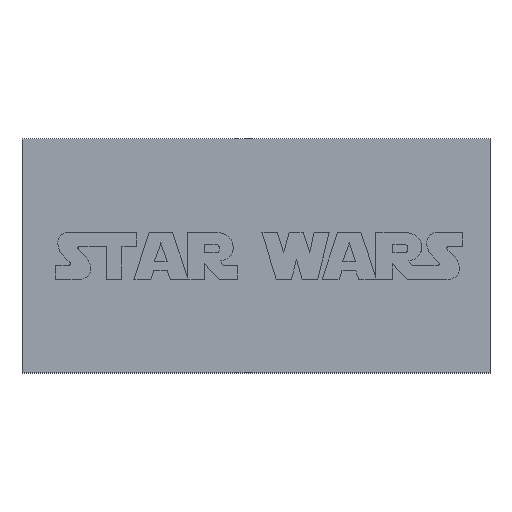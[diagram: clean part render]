
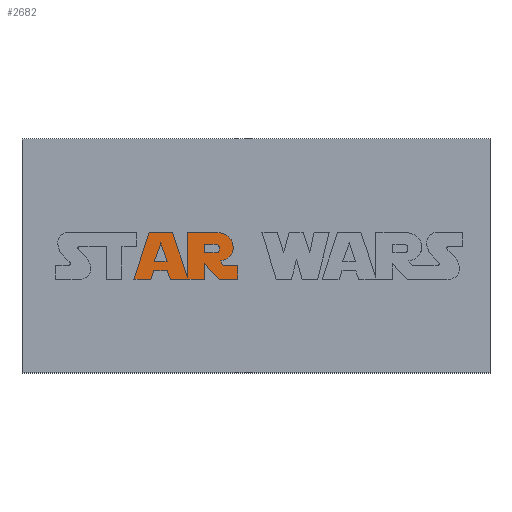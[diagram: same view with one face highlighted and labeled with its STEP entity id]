
A CAD part, top view. The second image highlights one B-rep face of the part: STEP entity #2682.
In plain terms, the highlighted planar face has unit normal (0, 0, 1).
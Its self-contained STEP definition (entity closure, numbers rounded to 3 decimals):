
#2049=CARTESIAN_POINT('',(-11.023,2.503,6.5));
#2050=VERTEX_POINT('',#2049);
#2051=CARTESIAN_POINT('',(-8.515,2.503,6.5));
#2052=VERTEX_POINT('',#2051);
#2053=CARTESIAN_POINT('',(-11.023,2.503,6.5));
#2054=DIRECTION('',(1.0,0.0,0.0));
#2055=VECTOR('',#2054,2.508);
#2056=LINE('',#2053,#2055);
#2057=EDGE_CURVE('',#2050,#2052,#2056,.T.);
#2093=CARTESIAN_POINT('',(-7.818,1.564,6.5));
#2094=VERTEX_POINT('',#2093);
#2095=CARTESIAN_POINT('',(-8.515,2.503,6.5));
#2096=CARTESIAN_POINT('',(-8.349,2.503,6.5));
#2097=CARTESIAN_POINT('',(-7.852,2.138,6.5));
#2098=CARTESIAN_POINT('',(-7.818,1.564,6.5));
#2099=QUASI_UNIFORM_CURVE('',2,(#2095,#2096,#2097,#2098),.UNSPECIFIED.,.F.,.U.);
#2100=EDGE_CURVE('',#2052,#2094,#2099,.T.);
#2130=CARTESIAN_POINT('',(-8.504,0.657,6.5));
#2131=VERTEX_POINT('',#2130);
#2132=CARTESIAN_POINT('',(-7.818,1.564,6.5));
#2133=CARTESIAN_POINT('',(-7.841,0.956,6.5));
#2134=CARTESIAN_POINT('',(-8.305,0.657,6.5));
#2135=CARTESIAN_POINT('',(-8.504,0.657,6.5));
#2136=QUASI_UNIFORM_CURVE('',2,(#2132,#2133,#2134,#2135),.UNSPECIFIED.,.F.,.U.);
#2137=EDGE_CURVE('',#2094,#2131,#2136,.T.);
#2163=CARTESIAN_POINT('',(-11.023,0.657,6.5));
#2164=VERTEX_POINT('',#2163);
#2165=CARTESIAN_POINT('',(-8.504,0.657,6.5));
#2166=DIRECTION('',(-1.0,0.0,0.0));
#2167=VECTOR('',#2166,2.519);
#2168=LINE('',#2165,#2167);
#2169=EDGE_CURVE('',#2131,#2164,#2168,.T.);
#2194=CARTESIAN_POINT('',(-11.023,0.657,6.5));
#2195=DIRECTION('',(0.0,1.0,0.0));
#2196=VECTOR('',#2195,1.845);
#2197=LINE('',#2194,#2196);
#2198=EDGE_CURVE('',#2164,#2050,#2197,.T.);
#2216=CARTESIAN_POINT('',(-14.636,-4.603,6.5));
#2217=VERTEX_POINT('',#2216);
#2226=CARTESIAN_POINT('',(-14.636,5.,6.5));
#2227=VERTEX_POINT('',#2226);
#2228=CARTESIAN_POINT('',(-14.636,-4.603,6.5));
#2229=DIRECTION('',(0.0,1.0,0.0));
#2230=VECTOR('',#2229,9.603);
#2231=LINE('',#2228,#2230);
#2232=EDGE_CURVE('',#2217,#2227,#2231,.T.);
#2256=CARTESIAN_POINT('',(-8.139,5.,6.5));
#2257=VERTEX_POINT('',#2256);
#2258=CARTESIAN_POINT('',(-14.636,5.,6.5));
#2259=DIRECTION('',(1.0,0.0,0.0));
#2260=VECTOR('',#2259,6.497);
#2261=LINE('',#2258,#2260);
#2262=EDGE_CURVE('',#2227,#2257,#2261,.T.);
#2291=CARTESIAN_POINT('',(-5.023,2.945,6.5));
#2292=VERTEX_POINT('',#2291);
#2293=CARTESIAN_POINT('',(-8.139,5.,6.5));
#2294=CARTESIAN_POINT('',(-6.934,4.89,6.5));
#2295=CARTESIAN_POINT('',(-5.376,3.829,6.5));
#2296=CARTESIAN_POINT('',(-5.023,2.945,6.5));
#2297=QUASI_UNIFORM_CURVE('',2,(#2293,#2294,#2295,#2296),.UNSPECIFIED.,.F.,.U.);
#2298=EDGE_CURVE('',#2257,#2292,#2297,.T.);
#2330=CARTESIAN_POINT('',(-7.653,-1.066,6.5));
#2331=VERTEX_POINT('',#2330);
#2332=CARTESIAN_POINT('',(-5.023,2.945,6.5));
#2333=CARTESIAN_POINT('',(-4.747,1.619,6.5));
#2334=CARTESIAN_POINT('',(-5.244,0.182,6.5));
#2335=CARTESIAN_POINT('',(-6.481,-0.79,6.5));
#2336=CARTESIAN_POINT('',(-7.653,-1.066,6.5));
#2337=QUASI_UNIFORM_CURVE('',2,(#2332,#2333,#2334,#2335,#2336),.UNSPECIFIED.,.F.,.U.);
#2338=EDGE_CURVE('',#2292,#2331,#2337,.T.);
#2365=CARTESIAN_POINT('',(-6.901,-2.028,6.5));
#2366=VERTEX_POINT('',#2365);
#2367=CARTESIAN_POINT('',(-7.653,-1.066,6.5));
#2368=DIRECTION('',(0.616,-0.788,0.0));
#2369=VECTOR('',#2368,1.22);
#2370=LINE('',#2367,#2369);
#2371=EDGE_CURVE('',#2331,#2366,#2370,.T.);
#2396=CARTESIAN_POINT('',(-3.907,-2.028,6.5));
#2397=VERTEX_POINT('',#2396);
#2398=CARTESIAN_POINT('',(-6.901,-2.028,6.5));
#2399=DIRECTION('',(1.0,0.0,0.0));
#2400=VECTOR('',#2399,2.994);
#2401=LINE('',#2398,#2400);
#2402=EDGE_CURVE('',#2366,#2397,#2401,.T.);
#2427=CARTESIAN_POINT('',(-3.907,-5.,6.5));
#2428=VERTEX_POINT('',#2427);
#2429=CARTESIAN_POINT('',(-3.907,-2.028,6.5));
#2430=DIRECTION('',(0.0,-1.0,0.0));
#2431=VECTOR('',#2430,2.972);
#2432=LINE('',#2429,#2431);
#2433=EDGE_CURVE('',#2397,#2428,#2432,.T.);
#2458=CARTESIAN_POINT('',(-7.852,-5.,6.5));
#2459=VERTEX_POINT('',#2458);
#2460=CARTESIAN_POINT('',(-3.907,-5.,6.5));
#2461=DIRECTION('',(-1.0,0.0,0.0));
#2462=VECTOR('',#2461,3.945);
#2463=LINE('',#2460,#2462);
#2464=EDGE_CURVE('',#2428,#2459,#2463,.T.);
#2489=CARTESIAN_POINT('',(-11.023,-1.696,6.5));
#2490=VERTEX_POINT('',#2489);
#2491=CARTESIAN_POINT('',(-7.852,-5.,6.5));
#2492=DIRECTION('',(-0.692,0.721,0.0));
#2493=VECTOR('',#2492,4.58);
#2494=LINE('',#2491,#2493);
#2495=EDGE_CURVE('',#2459,#2490,#2494,.T.);
#2520=CARTESIAN_POINT('',(-11.023,-5.,6.5));
#2521=VERTEX_POINT('',#2520);
#2522=CARTESIAN_POINT('',(-11.023,-1.696,6.5));
#2523=DIRECTION('',(0.0,-1.0,0.0));
#2524=VECTOR('',#2523,3.304);
#2525=LINE('',#2522,#2524);
#2526=EDGE_CURVE('',#2490,#2521,#2525,.T.);
#2551=CARTESIAN_POINT('',(-18.283,-5.,6.5));
#2552=VERTEX_POINT('',#2551);
#2553=CARTESIAN_POINT('',(-11.023,-5.,6.5));
#2554=DIRECTION('',(-1.0,0.0,0.0));
#2555=VECTOR('',#2554,7.26);
#2556=LINE('',#2553,#2555);
#2557=EDGE_CURVE('',#2521,#2552,#2556,.T.);
#2577=CARTESIAN_POINT('',(-20.314,-0.923,6.5));
#2578=DIRECTION('',(0.0,0.0,1.0));
#2579=DIRECTION('',(1.0,0.0,0.0));
#2580=AXIS2_PLACEMENT_3D('',#2577,#2578,#2579);
#2581=PLANE('',#2580);
#2582=CARTESIAN_POINT('',(-17.841,5.,6.5));
#2583=VERTEX_POINT('',#2582);
#2584=CARTESIAN_POINT('',(-17.841,5.,6.5));
#2585=DIRECTION('',(0.317,-0.949,0.0));
#2586=VECTOR('',#2585,10.123);
#2587=LINE('',#2584,#2586);
#2588=EDGE_CURVE('',#2583,#2217,#2587,.T.);
#2589=ORIENTED_EDGE('',*,*,#2588,.F.);
#2590=CARTESIAN_POINT('',(-22.813,5.,6.5));
#2591=VERTEX_POINT('',#2590);
#2592=CARTESIAN_POINT('',(-22.813,5.,6.5));
#2593=DIRECTION('',(1.0,0.0,0.0));
#2594=VECTOR('',#2593,4.972);
#2595=LINE('',#2592,#2594);
#2596=EDGE_CURVE('',#2591,#2583,#2595,.T.);
#2597=ORIENTED_EDGE('',*,*,#2596,.F.);
#2598=CARTESIAN_POINT('',(-26.095,-5.,6.5));
#2599=VERTEX_POINT('',#2598);
#2600=CARTESIAN_POINT('',(-26.095,-5.,6.5));
#2601=DIRECTION('',(0.312,0.95,0.0));
#2602=VECTOR('',#2601,10.525);
#2603=LINE('',#2600,#2602);
#2604=EDGE_CURVE('',#2599,#2591,#2603,.T.);
#2605=ORIENTED_EDGE('',*,*,#2604,.F.);
#2606=CARTESIAN_POINT('',(-22.515,-5.,6.5));
#2607=VERTEX_POINT('',#2606);
#2608=CARTESIAN_POINT('',(-22.515,-5.,6.5));
#2609=DIRECTION('',(-1.0,0.0,0.0));
#2610=VECTOR('',#2609,3.58);
#2611=LINE('',#2608,#2610);
#2612=EDGE_CURVE('',#2607,#2599,#2611,.T.);
#2613=ORIENTED_EDGE('',*,*,#2612,.F.);
#2614=CARTESIAN_POINT('',(-21.885,-3.199,6.5));
#2615=VERTEX_POINT('',#2614);
#2616=CARTESIAN_POINT('',(-21.885,-3.199,6.5));
#2617=DIRECTION('',(-0.33,-0.944,0.0));
#2618=VECTOR('',#2617,1.908);
#2619=LINE('',#2616,#2618);
#2620=EDGE_CURVE('',#2615,#2607,#2619,.T.);
#2621=ORIENTED_EDGE('',*,*,#2620,.F.);
#2622=CARTESIAN_POINT('',(-18.912,-3.199,6.5));
#2623=VERTEX_POINT('',#2622);
#2624=CARTESIAN_POINT('',(-18.912,-3.199,6.5));
#2625=DIRECTION('',(-1.0,0.0,0.0));
#2626=VECTOR('',#2625,2.972);
#2627=LINE('',#2624,#2626);
#2628=EDGE_CURVE('',#2623,#2615,#2627,.T.);
#2629=ORIENTED_EDGE('',*,*,#2628,.F.);
#2630=CARTESIAN_POINT('',(-18.283,-5.,6.5));
#2631=DIRECTION('',(-0.33,0.944,0.0));
#2632=VECTOR('',#2631,1.908);
#2633=LINE('',#2630,#2632);
#2634=EDGE_CURVE('',#2552,#2623,#2633,.T.);
#2635=ORIENTED_EDGE('',*,*,#2634,.F.);
#2636=ORIENTED_EDGE('',*,*,#2557,.F.);
#2637=ORIENTED_EDGE('',*,*,#2526,.F.);
#2638=ORIENTED_EDGE('',*,*,#2495,.F.);
#2639=ORIENTED_EDGE('',*,*,#2464,.F.);
#2640=ORIENTED_EDGE('',*,*,#2433,.F.);
#2641=ORIENTED_EDGE('',*,*,#2402,.F.);
#2642=ORIENTED_EDGE('',*,*,#2371,.F.);
#2643=ORIENTED_EDGE('',*,*,#2338,.F.);
#2644=ORIENTED_EDGE('',*,*,#2298,.F.);
#2645=ORIENTED_EDGE('',*,*,#2262,.F.);
#2646=ORIENTED_EDGE('',*,*,#2232,.F.);
#2647=EDGE_LOOP('',(#2589,#2597,#2605,#2613,#2621,#2629,#2635,#2636,#2637,#2638,#2639,#2640,#2641,#2642,#2643,#2644,#2645,#2646));
#2648=FACE_OUTER_BOUND('',#2647,.T.);
#2649=ORIENTED_EDGE('',*,*,#2057,.T.);
#2650=ORIENTED_EDGE('',*,*,#2100,.T.);
#2651=ORIENTED_EDGE('',*,*,#2137,.T.);
#2652=ORIENTED_EDGE('',*,*,#2169,.T.);
#2653=ORIENTED_EDGE('',*,*,#2198,.T.);
#2654=EDGE_LOOP('',(#2649,#2650,#2651,#2652,#2653));
#2655=FACE_BOUND('',#2654,.T.);
#2656=CARTESIAN_POINT('',(-20.316,2.779,6.5));
#2657=VERTEX_POINT('',#2656);
#2658=CARTESIAN_POINT('',(-18.99,-1.177,6.5));
#2659=VERTEX_POINT('',#2658);
#2660=CARTESIAN_POINT('',(-20.316,2.779,6.5));
#2661=DIRECTION('',(0.318,-0.948,0.0));
#2662=VECTOR('',#2661,4.172);
#2663=LINE('',#2660,#2662);
#2664=EDGE_CURVE('',#2657,#2659,#2663,.T.);
#2665=ORIENTED_EDGE('',*,*,#2664,.T.);
#2666=CARTESIAN_POINT('',(-21.752,-1.177,6.5));
#2667=VERTEX_POINT('',#2666);
#2668=CARTESIAN_POINT('',(-18.99,-1.177,6.5));
#2669=DIRECTION('',(-1.0,0.0,0.0));
#2670=VECTOR('',#2669,2.762);
#2671=LINE('',#2668,#2670);
#2672=EDGE_CURVE('',#2659,#2667,#2671,.T.);
#2673=ORIENTED_EDGE('',*,*,#2672,.T.);
#2674=CARTESIAN_POINT('',(-21.752,-1.177,6.5));
#2675=DIRECTION('',(0.341,0.94,0.0));
#2676=VECTOR('',#2675,4.209);
#2677=LINE('',#2674,#2676);
#2678=EDGE_CURVE('',#2667,#2657,#2677,.T.);
#2679=ORIENTED_EDGE('',*,*,#2678,.T.);
#2680=EDGE_LOOP('',(#2665,#2673,#2679));
#2681=FACE_BOUND('',#2680,.T.);
#2682=ADVANCED_FACE('',(#2648,#2655,#2681),#2581,.T.);
